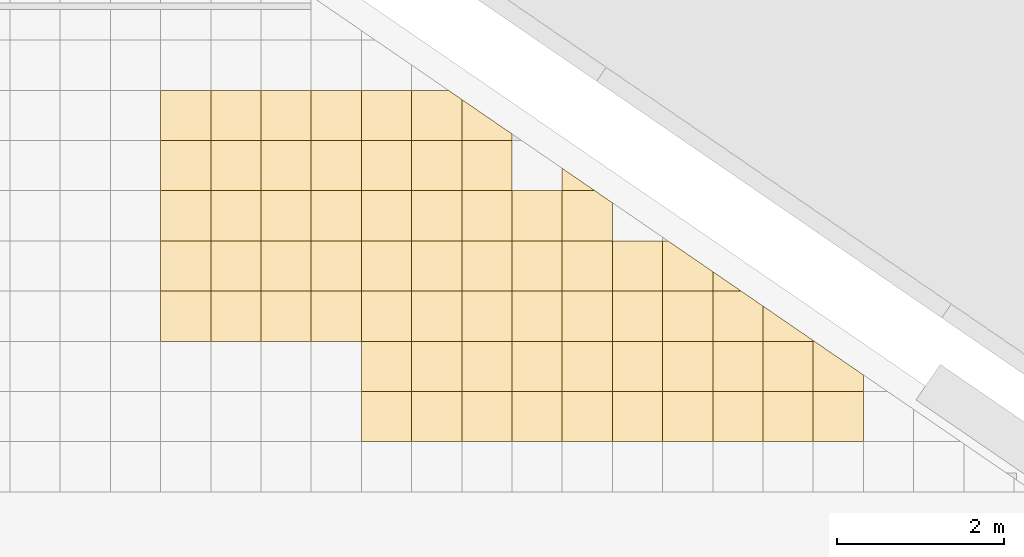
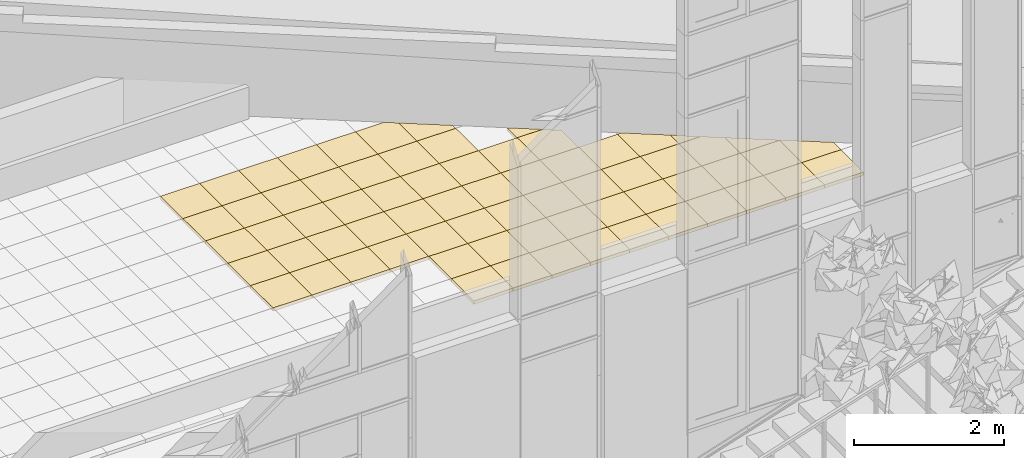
# One storey, part 199 of 246: 69 coverings.
"""IFC2X3 building model written with IfcOpenShell, lengths in millimetres."""

import ifcopenshell
import ifcopenshell.guid

model = None  # the IFC model being written
_history = None  # IfcOwnerHistory: only IFC2X3 demands one
_inside = {}  # id of a spatial element -> (the spatial element, [elements in it])
_under = {}  # id of a project, library or spatial element -> (it, [spatial elements below it])
_declared = {}  # id of a project -> (the project, [libraries it declares])
_typed = {}  # id of a type object -> (the type object, [elements of that type])
_made_of = {}  # id of a material, layer set ... -> (it, [elements and type objects made of it])


def new_model(schema):
    """Start an empty IFC model of exactly this schema.

    Asked for "IFC4X3", IfcOpenShell would pick the latest addendum, in which some entities
    have other attributes; the version numbers below select the first issue.
    IFC2X3 requires an IfcOwnerHistory on every rooted entity: one is made here for all.
    """
    global model, _history
    if schema == "IFC4X3":
        model = ifcopenshell.file(schema_version=(4, 3, 0, 0))
    else:
        model = ifcopenshell.file(schema=schema)
    _inside.clear()
    _under.clear()
    _declared.clear()
    _typed.clear()
    _made_of.clear()
    _history = None
    if model.schema == "IFC2X3":
        org = make("IfcOrganization", Name="unknown")
        user = make(
            "IfcPersonAndOrganization",
            ThePerson=make("IfcPerson", FamilyName="unknown"),
            TheOrganization=org,
        )
        app = make(
            "IfcApplication",
            ApplicationDeveloper=org,
            Version="unknown",
            ApplicationFullName="unknown",
            ApplicationIdentifier="unknown",
        )
        _history = make(
            "IfcOwnerHistory",
            OwningUser=user,
            OwningApplication=app,
            ChangeAction="ADDED",
            CreationDate=0,
        )
    return model


def make(cls, **values):
    """One entity of the class cls with the attributes given. An attribute that is None is left unset."""
    return model.create_entity(
        cls, **{name: value for name, value in values.items() if value is not None}
    )


def entity(cls, *values):
    """Any entity or typed value of the class cls, its attributes in the order of the schema. None: left unset."""
    e = model.create_entity(cls)
    for i, value in enumerate(values):
        if value is not None:
            e[i] = value
    return e


def rooted(cls, **values):
    """An entity with a GlobalId (a new one), such as an element, a storey or a relation."""
    return make(cls, GlobalId=ifcopenshell.guid.new(), OwnerHistory=_history, **values)


def si_unit(unit_type, name, prefix=None):
    """IfcSIUnit, for example si_unit("LENGTHUNIT", "METRE", prefix="MILLI")."""
    return make("IfcSIUnit", UnitType=unit_type, Prefix=prefix, Name=name)


def converted_unit(unit_type, name, factor, base, dimensions=None, offset=None):
    """IfcConversionBasedUnit, such as the inch: factor (a typed value) times the base unit."""
    return make(
        "IfcConversionBasedUnit"
        if offset is None
        else "IfcConversionBasedUnitWithOffset",
        ConversionOffset=offset,
        Dimensions=None
        if dimensions is None
        else entity("IfcDimensionalExponents", *dimensions),
        UnitType=unit_type,
        Name=name,
        ConversionFactor=make(
            "IfcMeasureWithUnit", ValueComponent=factor, UnitComponent=base
        ),
    )


def derived_unit(unit_type, elements):
    """IfcDerivedUnit: a product of units, each with its exponent."""
    return make(
        "IfcDerivedUnit",
        Elements=[
            make("IfcDerivedUnitElement", Unit=unit, Exponent=power)
            for unit, power in elements
        ],
        UnitType=unit_type,
    )


def money_unit(currency):
    """IfcMonetaryUnit."""
    return make("IfcMonetaryUnit", Currency=currency)


def assignment(units):
    """IfcUnitAssignment: the units of a project."""
    return None if units is None else make("IfcUnitAssignment", Units=units)


def point(xyz):
    """IfcCartesianPoint."""
    return None if xyz is None else make("IfcCartesianPoint", Coordinates=xyz)


def direction(xyz):
    """IfcDirection."""
    return None if xyz is None else make("IfcDirection", DirectionRatios=xyz)


def frame(location, z_axis=None, x_axis=None):
    """IfcAxis2Placement3D, a coordinate frame: its origin and axes. An axis left out is left unset."""
    return make(
        "IfcAxis2Placement3D",
        Location=point(location),
        Axis=direction(z_axis),
        RefDirection=direction(x_axis),
    )


def origin_with_axes():
    """The frame at (0, 0, 0) with the z axis (0, 0, 1) and the x axis (1, 0, 0) written out."""
    return frame((0.0, 0.0, 0.0), z_axis=(0.0, 0.0, 1.0), x_axis=(1.0, 0.0, 0.0))


def place(relative_to, where):
    """IfcLocalPlacement: puts the frame where relative to a parent placement (None: the world)."""
    return make(
        "IfcLocalPlacement", PlacementRelTo=relative_to, RelativePlacement=where
    )


def context(
    kind, dimensions, precision=None, world=None, true_north=None, identifier=None
):
    """IfcGeometricRepresentationContext, for example the 3D "Model" context."""
    return make(
        "IfcGeometricRepresentationContext",
        ContextIdentifier=identifier,
        ContextType=kind,
        CoordinateSpaceDimension=dimensions,
        Precision=precision,
        WorldCoordinateSystem=world,
        TrueNorth=true_north,
    )


def subcontext(parent, identifier, kind, view, scale=None):
    """IfcGeometricRepresentationSubContext, for example "Body" below "Model"."""
    return make(
        "IfcGeometricRepresentationSubContext",
        ContextIdentifier=identifier,
        ContextType=kind,
        ParentContext=parent,
        TargetScale=scale,
        TargetView=view,
    )


def project(units=None, contexts=None):
    """IfcProject with its units and contexts."""
    return rooted(
        "IfcProject",
        Name="project",
        RepresentationContexts=contexts,
        UnitsInContext=assignment(units),
    )


def spatial(cls, under=None, at=None, **own):
    """A site, building, storey or space (cls), placed at a placement, below another one or the project."""
    s = rooted(cls, ObjectPlacement=at, **own)
    if under is not None:
        _under.setdefault(under.id(), (under, []))[1].append(s)
    return s


def faces_of(points, faces, orient=None, outer=None):
    """IfcFace entities. A face is a list of loops; a loop is a list of indices into points, from 0.

    orient and outer hold one flag for each loop. By default every Orientation is true, the
    first loop of a face is its IfcFaceOuterBound and the others are IfcFaceBound.
    """
    made = []
    for i, loops in enumerate(faces):
        bounds = []
        for j, loop in enumerate(loops):
            is_outer = j == 0 if outer is None else outer[i][j]
            bounds.append(
                make(
                    "IfcFaceOuterBound" if is_outer else "IfcFaceBound",
                    Bound=make("IfcPolyLoop", Polygon=[points[k] for k in loop]),
                    Orientation=True if orient is None else orient[i][j],
                )
            )
        made.append(make("IfcFace", Bounds=bounds))
    return made


def faceted_brep(points, faces, orient=None, outer=None, voids=None):
    """IfcFacetedBrep: a solid bounded by flat faces; with voids (closed shells), ...WithVoids."""
    shared = [point(p) for p in points]
    hull = make("IfcClosedShell", CfsFaces=faces_of(shared, faces, orient, outer))
    if voids is None:
        return make("IfcFacetedBrep", Outer=hull)
    return make(
        "IfcFacetedBrepWithVoids",
        Outer=hull,
        Voids=[
            make(cls, CfsFaces=faces_of(shared, fs, o, b)) for cls, fs, o, b in voids
        ],
    )


def shape(context_of_items, identifier, shape_type, items):
    """IfcShapeRepresentation: the items that make up one representation, for example the "Body"."""
    return make(
        "IfcShapeRepresentation",
        ContextOfItems=context_of_items,
        RepresentationIdentifier=identifier,
        RepresentationType=shape_type,
        Items=items,
    )


def material(Name=None, Category=None):
    """IfcMaterial."""
    return make("IfcMaterial", Name=Name, Category=Category)


def material_list(materials):
    """IfcMaterialList."""
    return make("IfcMaterialList", Materials=materials)


def made_of(thing, what):
    """Note that an element or type object is made of a material, layer set ...; save() writes the relation."""
    if what is not None:
        _made_of.setdefault(what.id(), (what, []))[1].append(thing)
    return thing


def type_object(cls, material=None, **own):
    """A type object (cls), such as IfcWallType, which elements share."""
    return made_of(rooted(cls, **own), material)


def element(
    cls,
    number,
    at=None,
    inside=None,
    cuts=None,
    type_object=None,
    material=None,
    context=None,
    identifier="Body",
    shape_type=None,
    held_by="IfcProductDefinitionShape",
    body=None,
    shapes=None,
    **own,
):
    """One element of the class cls, such as IfcWall. Its Tag is "e" and its number.

    at: its placement. inside: the storey or other place that contains it. cuts: it is an
    opening in that element (IfcRelVoidsElement). A single representation is given by context,
    identifier, shape_type and body (its items); several are given by shapes. held_by: the class
    of the entity that holds the representations. save() writes the other relations.
    """
    e = rooted(cls, Tag="e%d" % number, ObjectPlacement=at, **own)
    if body is not None:
        shapes = [shape(context, identifier, shape_type, body)]
    if shapes is not None:
        e.Representation = make(held_by, Representations=shapes)
    if inside is not None:
        _inside.setdefault(inside.id(), (inside, []))[1].append(e)
    if cuts is not None:
        rooted(
            "IfcRelVoidsElement", RelatingBuildingElement=cuts, RelatedOpeningElement=e
        )
    if type_object is not None:
        _typed.setdefault(type_object.id(), (type_object, []))[1].append(e)
    return made_of(e, material)


def aggregate(whole, parts):
    """IfcRelAggregates: a whole, such as a stair, and the parts it consists of."""
    return rooted("IfcRelAggregates", RelatingObject=whole, RelatedObjects=parts)


def save(model, path):
    """Write the relations noted so far, then the file.

    IfcRelAggregates (storeys below a building ...), IfcRelContainedInSpatialStructure (elements
    in a storey), IfcRelDefinesByType, IfcRelAssociatesMaterial and IfcRelDeclares: one each for
    every whole, place, type object, material and project.
    """
    for whole, parts in _under.values():
        aggregate(whole, parts)
    for where, things in _inside.values():
        rooted(
            "IfcRelContainedInSpatialStructure",
            RelatedElements=things,
            RelatingStructure=where,
        )
    for kind, things in _typed.values():
        rooted("IfcRelDefinesByType", RelatedObjects=things, RelatingType=kind)
    for what, things in _made_of.values():
        rooted("IfcRelAssociatesMaterial", RelatedObjects=things, RelatingMaterial=what)
    for by, libraries in _declared.values():
        rooted("IfcRelDeclares", RelatingContext=by, RelatedDefinitions=libraries)
    model.write(path)


model = new_model("IFC2X3")

# Units and contexts
model_context = context("Model", 3, precision=0.01, world=origin_with_axes(), true_north=direction((0.0, 1.0)))
body_context = subcontext(model_context, "Body", "Model", "MODEL_VIEW")
ifc_project = project(units=[si_unit("LENGTHUNIT", "METRE", prefix="MILLI"), si_unit("AREAUNIT", "SQUARE_METRE"), si_unit("VOLUMEUNIT", "CUBIC_METRE"), converted_unit("PLANEANGLEUNIT", "DEGREE", entity("IfcPlaneAngleMeasure", 0.0174532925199), si_unit("PLANEANGLEUNIT", "RADIAN"), dimensions=[0, 0, 0, 0, 0, 0, 0]), si_unit("SOLIDANGLEUNIT", "STERADIAN"), money_unit("EUR"), converted_unit("TIMEUNIT", "Year", entity("IfcTimeMeasure", 31556926.0), si_unit("TIMEUNIT", "SECOND"), dimensions=[0, 0, 1, 0, 0, 0, 0]), si_unit("MASSUNIT", "GRAM", prefix="KILO"), si_unit("THERMODYNAMICTEMPERATUREUNIT", "DEGREE_CELSIUS"), si_unit("LUMINOUSINTENSITYUNIT", "LUMEN"), si_unit("ENERGYUNIT", "JOULE", prefix="MEGA"), derived_unit("THERMALCONDUCTANCEUNIT", [(si_unit("POWERUNIT", "WATT"), 1), (si_unit("LENGTHUNIT", "METRE"), -1), (si_unit("THERMODYNAMICTEMPERATUREUNIT", "KELVIN"), -1)]), derived_unit("SPECIFICHEATCAPACITYUNIT", [(si_unit("ENERGYUNIT", "JOULE"), 1), (si_unit("MASSUNIT", "GRAM", prefix="KILO"), -1), (si_unit("THERMODYNAMICTEMPERATUREUNIT", "KELVIN"), -1)]), derived_unit("MASSDENSITYUNIT", [(si_unit("MASSUNIT", "GRAM", prefix="KILO"), 1), (si_unit("VOLUMEUNIT", "CUBIC_METRE"), -1)])], contexts=[model_context])

# Site, building, storey
site_placement = place(None, origin_with_axes())
site = spatial("IfcSite", under=ifc_project, at=site_placement, Name="L.Koidula tn 11b", CompositionType="ELEMENT")
building_placement = place(site_placement, origin_with_axes())
building = spatial("IfcBuilding", under=site, at=building_placement, Name="Rakvere Riigigümnaasium", CompositionType="ELEMENT")
storey_placement = place(building_placement, origin_with_axes())
storey = spatial("IfcBuildingStorey", under=building, at=storey_placement, Name="1.korrus 0,00", CompositionType="ELEMENT", Elevation=0.0)

# Coverings
ifc_material_1 = material(Name="Karkass")
ifc_material_2 = material(Name="Kipsplaat")
ifc_material_list = material_list([ifc_material_1, ifc_material_2])
covering_type = type_object("IfcCoveringType", Name="SA-LV-Kips-moodul 55", PredefinedType="CEILING")
for number, where, z_axis, x_axis, name in (
    (1, (91709.8850867, 10490.4535941, 2750.0), (0.0, 0.0, 1.0), (1.0, 0.0, 0.0), "L-03"),
    (2, (91709.8850867, 9890.45359412, 2750.0), (0.0, 0.0, 1.0), (1.0, 0.0, 0.0), "L-03"),
    (3, (91709.8850867, 9290.45359412, 2750.0), (0.0, 0.0, 1.0), (1.0, 0.0, 0.0), "L-03"),
    (4, (91709.8850867, 8690.45359412, 2750.0), (0.0, 0.0, 1.0), (1.0, 0.0, 0.0), "L-03"),
    (5, (91709.8850867, 8090.45359412, 2750.0), (0.0, 0.0, 1.0), (1.0, 0.0, 0.0), "L-03"),
):
    element("IfcCovering", number, at=place(storey_placement, frame(where, z_axis=z_axis, x_axis=x_axis)), inside=storey, type_object=covering_type, material=ifc_material_list, Name=name, PredefinedType="CEILING", context=body_context, shape_type="Brep", body=[
        faceted_brep([(599.999948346, 0.0, 12.5), (599.999948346, 0.0, 54.5), (0.0, 0.0, 54.5), (0.0, 0.0, 12.5), (599.999948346, 600.0, 12.5), (599.999948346, 600.0, 54.5), (0.0, 600.0, 54.5), (0.0, 600.0, 12.5)], [[[0, 1, 2, 3]], [[4, 5, 1, 0]], [[2, 1, 5, 6]], [[3, 2, 6, 7]], [[3, 7, 4, 0]], [[7, 6, 5, 4]]]),
        faceted_brep([(0.0, 0.0, 0.0), (599.999948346, 0.0, 0.0), (599.999948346, 0.0, 12.5), (0.0, 0.0, 12.5), (0.0, 600.0, 0.0), (599.999948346, 600.0, 0.0), (599.999948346, 600.0, 12.5), (0.0, 600.0, 12.5)], [[[0, 1, 2, 3]], [[0, 4, 5, 1]], [[1, 5, 6, 2]], [[3, 2, 6, 7]], [[4, 0, 3, 7]], [[5, 4, 7, 6]]]),
    ])
for number, where, z_axis, x_axis, name in (
    (6, (91109.8850867, 8090.45359412, 2750.0), (0.0, 0.0, 1.0), (1.0, 0.0, 0.0), "L-03"),
    (7, (91109.8850867, 8690.45359412, 2750.0), (0.0, 0.0, 1.0), (1.0, 0.0, 0.0), "L-03"),
    (8, (91109.8850867, 9290.45359412, 2750.0), (0.0, 0.0, 1.0), (1.0, 0.0, 0.0), "L-03"),
    (9, (91109.8850867, 9890.45359412, 2750.0), (0.0, 0.0, 1.0), (1.0, 0.0, 0.0), "L-03"),
    (10, (91109.8850867, 10490.4535941, 2750.0), (0.0, 0.0, 1.0), (1.0, 0.0, 0.0), "L-03"),
):
    element("IfcCovering", number, at=place(storey_placement, frame(where, z_axis=z_axis, x_axis=x_axis)), inside=storey, type_object=covering_type, material=ifc_material_list, Name=name, PredefinedType="CEILING", context=body_context, shape_type="Brep", body=[
        faceted_brep([(600.0, 0.0, 12.5), (600.0, 0.0, 54.5), (0.0, 0.0, 54.5), (0.0, 0.0, 12.5), (600.0, 600.0, 12.5), (600.0, 600.0, 54.5), (0.0, 600.0, 54.5), (0.0, 600.0, 12.5)], [[[0, 1, 2, 3]], [[4, 5, 1, 0]], [[2, 1, 5, 6]], [[3, 2, 6, 7]], [[3, 7, 4, 0]], [[7, 6, 5, 4]]]),
        faceted_brep([(0.0, 0.0, 0.0), (600.0, 0.0, 0.0), (600.0, 0.0, 12.5), (0.0, 0.0, 12.5), (0.0, 600.0, 0.0), (600.0, 600.0, 0.0), (600.0, 600.0, 12.5), (0.0, 600.0, 12.5)], [[[0, 1, 2, 3]], [[0, 4, 5, 1]], [[1, 5, 6, 2]], [[3, 2, 6, 7]], [[4, 0, 3, 7]], [[5, 4, 7, 6]]]),
    ])
for number, where, z_axis, x_axis, name in (
    (11, (92909.8850351, 10490.4535941, 2750.0), (0.0, 0.0, 1.0), (1.0, 0.0, 0.0), "L-03"),
    (12, (92909.8850351, 9890.45359412, 2750.0), (0.0, 0.0, 1.0), (1.0, 0.0, 0.0), "L-03"),
    (13, (92909.8850351, 9290.45359412, 2750.0), (0.0, 0.0, 1.0), (1.0, 0.0, 0.0), "L-03"),
    (14, (92909.8850351, 8690.45359412, 2750.0), (0.0, 0.0, 1.0), (1.0, 0.0, 0.0), "L-03"),
    (15, (92909.8850351, 8090.45359412, 2750.0), (0.0, 0.0, 1.0), (1.0, 0.0, 0.0), "L-03"),
):
    element("IfcCovering", number, at=place(storey_placement, frame(where, z_axis=z_axis, x_axis=x_axis)), inside=storey, type_object=covering_type, material=ifc_material_list, Name=name, PredefinedType="CEILING", context=body_context, shape_type="Brep", body=[
        faceted_brep([(599.999948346, 0.0, 12.5), (599.999948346, 0.0, 54.5), (0.0, 0.0, 54.5), (0.0, 0.0, 12.5), (599.999948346, 600.0, 12.5), (599.999948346, 600.0, 54.5), (0.0, 600.0, 54.5), (0.0, 600.0, 12.5)], [[[0, 1, 2, 3]], [[4, 5, 1, 0]], [[2, 1, 5, 6]], [[3, 2, 6, 7]], [[3, 7, 4, 0]], [[7, 6, 5, 4]]]),
        faceted_brep([(0.0, 0.0, 0.0), (599.999948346, 0.0, 0.0), (599.999948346, 0.0, 12.5), (0.0, 0.0, 12.5), (0.0, 600.0, 0.0), (599.999948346, 600.0, 0.0), (599.999948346, 600.0, 12.5), (0.0, 600.0, 12.5)], [[[0, 1, 2, 3]], [[0, 4, 5, 1]], [[1, 5, 6, 2]], [[3, 2, 6, 7]], [[4, 0, 3, 7]], [[5, 4, 7, 6]]]),
    ])
for number, where, z_axis, x_axis, name in (
    (16, (92309.8850351, 8090.45359412, 2750.0), (0.0, 0.0, 1.0), (1.0, 0.0, 0.0), "L-03"),
    (17, (92309.8850351, 8690.45359412, 2750.0), (0.0, 0.0, 1.0), (1.0, 0.0, 0.0), "L-03"),
    (18, (92309.8850351, 9290.45359412, 2750.0), (0.0, 0.0, 1.0), (1.0, 0.0, 0.0), "L-03"),
    (19, (92309.8850351, 9890.45359412, 2750.0), (0.0, 0.0, 1.0), (1.0, 0.0, 0.0), "L-03"),
    (20, (92309.8850351, 10490.4535941, 2750.0), (0.0, 0.0, 1.0), (1.0, 0.0, 0.0), "L-03"),
):
    element("IfcCovering", number, at=place(storey_placement, frame(where, z_axis=z_axis, x_axis=x_axis)), inside=storey, type_object=covering_type, material=ifc_material_list, Name=name, PredefinedType="CEILING", context=body_context, shape_type="Brep", body=[
        faceted_brep([(600.0, 0.0, 12.5), (600.0, 0.0, 54.5), (0.0, 0.0, 54.5), (0.0, 0.0, 12.5), (600.0, 600.0, 12.5), (600.0, 600.0, 54.5), (0.0, 600.0, 54.5), (0.0, 600.0, 12.5)], [[[0, 1, 2, 3]], [[4, 5, 1, 0]], [[2, 1, 5, 6]], [[3, 2, 6, 7]], [[3, 7, 4, 0]], [[7, 6, 5, 4]]]),
        faceted_brep([(0.0, 0.0, 0.0), (600.0, 0.0, 0.0), (600.0, 0.0, 12.5), (0.0, 0.0, 12.5), (0.0, 600.0, 0.0), (600.0, 600.0, 0.0), (600.0, 600.0, 12.5), (0.0, 600.0, 12.5)], [[[0, 1, 2, 3]], [[0, 4, 5, 1]], [[1, 5, 6, 2]], [[3, 2, 6, 7]], [[4, 0, 3, 7]], [[5, 4, 7, 6]]]),
    ])
covering_1_placement = place(storey_placement, frame((94109.8849834, 10490.4535941, 2750.0), z_axis=(0.0, 0.0, 1.0), x_axis=(1.0, 0.0, 0.0)))
element("IfcCovering", 21, at=covering_1_placement, inside=storey, type_object=covering_type, material=ifc_material_list, Name="L-03", PredefinedType="CEILING", context=body_context, shape_type="Brep", body=[
    faceted_brep([(599.999948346, 0.0, 12.5), (599.999948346, 0.0, 54.5), (0.0, 0.0, 54.5), (0.0, 0.0, 12.5), (599.999948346, 490.135906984, 12.5), (599.999948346, 490.135906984, 54.5), (439.819595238, 600.0, 54.5), (0.0, 600.0, 54.5), (0.0, 600.0, 12.5), (439.819595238, 600.0, 12.5)], [[[0, 1, 2, 3]], [[4, 5, 1, 0]], [[2, 1, 5, 6, 7]], [[3, 2, 7, 8]], [[3, 8, 9, 4, 0]], [[9, 6, 5, 4]], [[8, 7, 6, 9]]]),
    faceted_brep([(0.0, 0.0, 0.0), (599.999948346, 0.0, 0.0), (599.999948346, 0.0, 12.5), (0.0, 0.0, 12.5), (0.0, 600.0, 0.0), (439.819595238, 600.0, 0.0), (599.999948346, 490.135906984, 0.0), (599.999948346, 490.135906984, 12.5), (439.819595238, 600.0, 12.5), (0.0, 600.0, 12.5)], [[[0, 1, 2, 3]], [[0, 4, 5, 6, 1]], [[1, 6, 7, 2]], [[3, 2, 7, 8, 9]], [[4, 0, 3, 9]], [[5, 4, 9, 8]], [[6, 5, 8, 7]]]),
])
for number, where, z_axis, x_axis, name in (
    (22, (94109.8849834, 9890.45359412, 2750.0), (0.0, 0.0, 1.0), (1.0, 0.0, 0.0), "L-03"),
    (23, (94109.8849834, 9290.45359412, 2750.0), (0.0, 0.0, 1.0), (1.0, 0.0, 0.0), "L-03"),
    (24, (94109.8849834, 8690.45359412, 2750.0), (0.0, 0.0, 1.0), (1.0, 0.0, 0.0), "L-03"),
    (25, (94109.8849834, 8090.45359412, 2750.0), (0.0, 0.0, 1.0), (1.0, 0.0, 0.0), "L-03"),
    (26, (94109.8849834, 7490.45359412, 2750.0), (0.0, 0.0, 1.0), (1.0, 0.0, 0.0), "L-03"),
    (27, (94109.8849834, 6890.45359412, 2750.0), (0.0, 0.0, 1.0), (1.0, 0.0, 0.0), "L-03"),
):
    element("IfcCovering", number, at=place(storey_placement, frame(where, z_axis=z_axis, x_axis=x_axis)), inside=storey, type_object=covering_type, material=ifc_material_list, Name=name, PredefinedType="CEILING", context=body_context, shape_type="Brep", body=[
        faceted_brep([(599.999948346, 0.0, 12.5), (599.999948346, 0.0, 54.5), (0.0, 0.0, 54.5), (0.0, 0.0, 12.5), (599.999948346, 600.0, 12.5), (599.999948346, 600.0, 54.5), (0.0, 600.0, 54.5), (0.0, 600.0, 12.5)], [[[0, 1, 2, 3]], [[4, 5, 1, 0]], [[2, 1, 5, 6]], [[3, 2, 6, 7]], [[3, 7, 4, 0]], [[7, 6, 5, 4]]]),
        faceted_brep([(0.0, 0.0, 0.0), (599.999948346, 0.0, 0.0), (599.999948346, 0.0, 12.5), (0.0, 0.0, 12.5), (0.0, 600.0, 0.0), (599.999948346, 600.0, 0.0), (599.999948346, 600.0, 12.5), (0.0, 600.0, 12.5)], [[[0, 1, 2, 3]], [[0, 4, 5, 1]], [[1, 5, 6, 2]], [[3, 2, 6, 7]], [[4, 0, 3, 7]], [[5, 4, 7, 6]]]),
    ])
for number, where, z_axis, x_axis, name in (
    (28, (93509.8849834, 7490.45359412, 2750.0), (0.0, 0.0, 1.0), (1.0, 0.0, 0.0), "L-03"),
    (29, (93509.8849834, 8090.45359412, 2750.0), (0.0, 0.0, 1.0), (1.0, 0.0, 0.0), "L-03"),
    (30, (93509.8849834, 8690.45359412, 2750.0), (0.0, 0.0, 1.0), (1.0, 0.0, 0.0), "L-03"),
    (31, (93509.8849834, 9290.45359412, 2750.0), (0.0, 0.0, 1.0), (1.0, 0.0, 0.0), "L-03"),
    (32, (93509.8849834, 9890.45359412, 2750.0), (0.0, 0.0, 1.0), (1.0, 0.0, 0.0), "L-03"),
    (33, (93509.8849834, 10490.4535941, 2750.0), (0.0, 0.0, 1.0), (1.0, 0.0, 0.0), "L-03"),
    (34, (93509.8849834, 6890.45359412, 2750.0), (0.0, 0.0, 1.0), (1.0, 0.0, 0.0), "L-03"),
):
    element("IfcCovering", number, at=place(storey_placement, frame(where, z_axis=z_axis, x_axis=x_axis)), inside=storey, type_object=covering_type, material=ifc_material_list, Name=name, PredefinedType="CEILING", context=body_context, shape_type="Brep", body=[
        faceted_brep([(600.0, 0.0, 12.5), (600.0, 0.0, 54.5), (0.0, 0.0, 54.5), (0.0, 0.0, 12.5), (600.0, 600.0, 12.5), (600.0, 600.0, 54.5), (0.0, 600.0, 54.5), (0.0, 600.0, 12.5)], [[[0, 1, 2, 3]], [[4, 5, 1, 0]], [[2, 1, 5, 6]], [[3, 2, 6, 7]], [[3, 7, 4, 0]], [[7, 6, 5, 4]]]),
        faceted_brep([(0.0, 0.0, 0.0), (600.0, 0.0, 0.0), (600.0, 0.0, 12.5), (0.0, 0.0, 12.5), (0.0, 600.0, 0.0), (600.0, 600.0, 0.0), (600.0, 600.0, 12.5), (0.0, 600.0, 12.5)], [[[0, 1, 2, 3]], [[0, 4, 5, 1]], [[1, 5, 6, 2]], [[3, 2, 6, 7]], [[4, 0, 3, 7]], [[5, 4, 7, 6]]]),
    ])
for number, where, z_axis, x_axis, name in (
    (35, (95309.8849318, 9290.45359412, 2750.0), (0.0, 0.0, 1.0), (1.0, 0.0, 0.0), "L-03"),
    (36, (95309.8849318, 8690.45359412, 2750.0), (0.0, 0.0, 1.0), (1.0, 0.0, 0.0), "L-03"),
    (37, (95309.8849318, 8090.45359412, 2750.0), (0.0, 0.0, 1.0), (1.0, 0.0, 0.0), "L-03"),
    (38, (95309.8849318, 7490.45359412, 2750.0), (0.0, 0.0, 1.0), (1.0, 0.0, 0.0), "L-03"),
    (39, (95309.8849318, 6890.45359412, 2750.0), (0.0, 0.0, 1.0), (1.0, 0.0, 0.0), "L-03"),
):
    element("IfcCovering", number, at=place(storey_placement, frame(where, z_axis=z_axis, x_axis=x_axis)), inside=storey, type_object=covering_type, material=ifc_material_list, Name=name, PredefinedType="CEILING", context=body_context, shape_type="Brep", body=[
        faceted_brep([(599.999948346, 0.0, 12.5), (599.999948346, 0.0, 54.5), (0.0, 0.0, 54.5), (0.0, 0.0, 12.5), (599.999948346, 600.0, 12.5), (599.999948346, 600.0, 54.5), (0.0, 600.0, 54.5), (0.0, 600.0, 12.5)], [[[0, 1, 2, 3]], [[4, 5, 1, 0]], [[2, 1, 5, 6]], [[3, 2, 6, 7]], [[3, 7, 4, 0]], [[7, 6, 5, 4]]]),
        faceted_brep([(0.0, 0.0, 0.0), (599.999948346, 0.0, 0.0), (599.999948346, 0.0, 12.5), (0.0, 0.0, 12.5), (0.0, 600.0, 0.0), (599.999948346, 600.0, 0.0), (599.999948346, 600.0, 12.5), (0.0, 600.0, 12.5)], [[[0, 1, 2, 3]], [[0, 4, 5, 1]], [[1, 5, 6, 2]], [[3, 2, 6, 7]], [[4, 0, 3, 7]], [[5, 4, 7, 6]]]),
    ])
for number, where, z_axis, x_axis, name in (
    (40, (94709.8849318, 7490.45359412, 2750.0), (0.0, 0.0, 1.0), (1.0, 0.0, 0.0), "L-03"),
    (41, (94709.8849318, 8090.45359412, 2750.0), (0.0, 0.0, 1.0), (1.0, 0.0, 0.0), "L-03"),
    (42, (94709.8849318, 8690.45359412, 2750.0), (0.0, 0.0, 1.0), (1.0, 0.0, 0.0), "L-03"),
    (43, (94709.8849318, 9290.45359412, 2750.0), (0.0, 0.0, 1.0), (1.0, 0.0, 0.0), "L-03"),
    (44, (94709.8849318, 9890.45359412, 2750.0), (0.0, 0.0, 1.0), (1.0, 0.0, 0.0), "L-03"),
):
    element("IfcCovering", number, at=place(storey_placement, frame(where, z_axis=z_axis, x_axis=x_axis)), inside=storey, type_object=covering_type, material=ifc_material_list, Name=name, PredefinedType="CEILING", context=body_context, shape_type="Brep", body=[
        faceted_brep([(600.0, 0.0, 12.5), (600.0, 0.0, 54.5), (0.0, 0.0, 54.5), (0.0, 0.0, 12.5), (600.0, 600.0, 12.5), (600.0, 600.0, 54.5), (0.0, 600.0, 54.5), (0.0, 600.0, 12.5)], [[[0, 1, 2, 3]], [[4, 5, 1, 0]], [[2, 1, 5, 6]], [[3, 2, 6, 7]], [[3, 7, 4, 0]], [[7, 6, 5, 4]]]),
        faceted_brep([(0.0, 0.0, 0.0), (600.0, 0.0, 0.0), (600.0, 0.0, 12.5), (0.0, 0.0, 12.5), (0.0, 600.0, 0.0), (600.0, 600.0, 0.0), (600.0, 600.0, 12.5), (0.0, 600.0, 12.5)], [[[0, 1, 2, 3]], [[0, 4, 5, 1]], [[1, 5, 6, 2]], [[3, 2, 6, 7]], [[4, 0, 3, 7]], [[5, 4, 7, 6]]]),
    ])
covering_2_placement = place(storey_placement, frame((94709.8849318, 10490.4535941, 2750.0), z_axis=(0.0, 0.0, 1.0), x_axis=(1.0, 0.0, 0.0)))
element("IfcCovering", 45, at=covering_2_placement, inside=storey, type_object=covering_type, material=ifc_material_list, Name="L-03", PredefinedType="CEILING", context=body_context, shape_type="Brep", body=[
    faceted_brep([(600.0, 0.0, 12.5), (600.0, 0.0, 54.5), (0.0, 0.0, 54.5), (0.0, 0.0, 12.5), (600.0, 78.6094336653, 12.5), (600.0, 78.6094336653, 54.5), (0.0, 490.135906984, 54.5), (0.0, 490.135906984, 12.5)], [[[0, 1, 2, 3]], [[4, 5, 1, 0]], [[2, 1, 5, 6]], [[3, 2, 6, 7]], [[3, 7, 4, 0]], [[7, 6, 5, 4]]]),
    faceted_brep([(0.0, 0.0, 0.0), (600.0, 0.0, 0.0), (600.0, 0.0, 12.5), (0.0, 0.0, 12.5), (0.0, 490.135906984, 0.0), (600.0, 78.6094336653, 0.0), (600.0, 78.6094336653, 12.5), (0.0, 490.135906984, 12.5)], [[[0, 1, 2, 3]], [[0, 4, 5, 1]], [[1, 5, 6, 2]], [[3, 2, 6, 7]], [[4, 0, 3, 7]], [[5, 4, 7, 6]]]),
])
covering_3_placement = place(storey_placement, frame((94709.8849318, 6890.45359412, 2750.0), z_axis=(0.0, 0.0, 1.0), x_axis=(1.0, 0.0, 0.0)))
element("IfcCovering", 46, at=covering_3_placement, inside=storey, type_object=covering_type, material=ifc_material_list, Name="L-03", PredefinedType="CEILING", context=body_context, shape_type="Brep", body=[
    faceted_brep([(600.0, 0.0, 12.5), (600.0, 0.0, 54.5), (0.0, 0.0, 54.5), (0.0, 0.0, 12.5), (600.0, 600.0, 12.5), (600.0, 600.0, 54.5), (0.0, 600.0, 54.5), (0.0, 600.0, 12.5)], [[[0, 1, 2, 3]], [[4, 5, 1, 0]], [[2, 1, 5, 6]], [[3, 2, 6, 7]], [[3, 7, 4, 0]], [[7, 6, 5, 4]]]),
    faceted_brep([(0.0, 0.0, 0.0), (600.0, 0.0, 0.0), (600.0, 0.0, 12.5), (0.0, 0.0, 12.5), (0.0, 600.0, 0.0), (600.0, 600.0, 0.0), (600.0, 600.0, 12.5), (0.0, 600.0, 12.5)], [[[0, 1, 2, 3]], [[0, 4, 5, 1]], [[1, 5, 6, 2]], [[3, 2, 6, 7]], [[4, 0, 3, 7]], [[5, 4, 7, 6]]]),
])
for number, where, z_axis, x_axis, name in (
    (47, (96509.8848801, 8690.45359412, 2750.0), (0.0, 0.0, 1.0), (1.0, 0.0, 0.0), "L-03"),
    (48, (96509.8848801, 8090.45359412, 2750.0), (0.0, 0.0, 1.0), (1.0, 0.0, 0.0), "L-03"),
    (49, (96509.8848801, 7490.45359412, 2750.0), (0.0, 0.0, 1.0), (1.0, 0.0, 0.0), "L-03"),
    (50, (96509.8848801, 6890.45359412, 2750.0), (0.0, 0.0, 1.0), (1.0, 0.0, 0.0), "L-03"),
):
    element("IfcCovering", number, at=place(storey_placement, frame(where, z_axis=z_axis, x_axis=x_axis)), inside=storey, type_object=covering_type, material=ifc_material_list, Name=name, PredefinedType="CEILING", context=body_context, shape_type="Brep", body=[
        faceted_brep([(599.999948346, 0.0, 12.5), (599.999948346, 0.0, 54.5), (0.0, 0.0, 54.5), (0.0, 0.0, 12.5), (599.999948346, 600.0, 12.5), (599.999948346, 600.0, 54.5), (0.0, 600.0, 54.5), (0.0, 600.0, 12.5)], [[[0, 1, 2, 3]], [[4, 5, 1, 0]], [[2, 1, 5, 6]], [[3, 2, 6, 7]], [[3, 7, 4, 0]], [[7, 6, 5, 4]]]),
        faceted_brep([(0.0, 0.0, 0.0), (599.999948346, 0.0, 0.0), (599.999948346, 0.0, 12.5), (0.0, 0.0, 12.5), (0.0, 600.0, 0.0), (599.999948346, 600.0, 0.0), (599.999948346, 600.0, 12.5), (0.0, 600.0, 12.5)], [[[0, 1, 2, 3]], [[0, 4, 5, 1]], [[1, 5, 6, 2]], [[3, 2, 6, 7]], [[4, 0, 3, 7]], [[5, 4, 7, 6]]]),
    ])
for number, where, z_axis, x_axis, name in (
    (51, (95909.8848801, 7490.45359412, 2750.0), (0.0, 0.0, 1.0), (1.0, 0.0, 0.0), "L-03"),
    (52, (95909.8848801, 8090.45359412, 2750.0), (0.0, 0.0, 1.0), (1.0, 0.0, 0.0), "L-03"),
    (53, (95909.8848801, 8690.45359412, 2750.0), (0.0, 0.0, 1.0), (1.0, 0.0, 0.0), "L-03"),
):
    element("IfcCovering", number, at=place(storey_placement, frame(where, z_axis=z_axis, x_axis=x_axis)), inside=storey, type_object=covering_type, material=ifc_material_list, Name=name, PredefinedType="CEILING", context=body_context, shape_type="Brep", body=[
        faceted_brep([(600.0, 0.0, 12.5), (600.0, 0.0, 54.5), (0.0, 0.0, 54.5), (0.0, 0.0, 12.5), (600.0, 600.0, 12.5), (600.0, 600.0, 54.5), (0.0, 600.0, 54.5), (0.0, 600.0, 12.5)], [[[0, 1, 2, 3]], [[4, 5, 1, 0]], [[2, 1, 5, 6]], [[3, 2, 6, 7]], [[3, 7, 4, 0]], [[7, 6, 5, 4]]]),
        faceted_brep([(0.0, 0.0, 0.0), (600.0, 0.0, 0.0), (600.0, 0.0, 12.5), (0.0, 0.0, 12.5), (0.0, 600.0, 0.0), (600.0, 600.0, 0.0), (600.0, 600.0, 12.5), (0.0, 600.0, 12.5)], [[[0, 1, 2, 3]], [[0, 4, 5, 1]], [[1, 5, 6, 2]], [[3, 2, 6, 7]], [[4, 0, 3, 7]], [[5, 4, 7, 6]]]),
    ])
covering_4_placement = place(storey_placement, frame((95909.8848801, 9290.45359412, 2750.0), z_axis=(0.0, 0.0, 1.0), x_axis=(1.0, 0.0, 0.0)))
element("IfcCovering", 54, at=covering_4_placement, inside=storey, type_object=covering_type, material=ifc_material_list, Name="L-03", PredefinedType="CEILING", context=body_context, shape_type="Brep", body=[
    faceted_brep([(600.0, 0.0, 12.5), (600.0, 0.0, 54.5), (0.0, 0.0, 54.5), (0.0, 0.0, 12.5), (600.0, 455.556522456, 12.5), (600.0, 455.556522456, 54.5), (389.403374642, 600.0, 54.5), (0.0, 600.0, 54.5), (0.0, 600.0, 12.5), (389.403374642, 600.0, 12.5)], [[[0, 1, 2, 3]], [[4, 5, 1, 0]], [[2, 1, 5, 6, 7]], [[3, 2, 7, 8]], [[3, 8, 9, 4, 0]], [[9, 6, 5, 4]], [[8, 7, 6, 9]]]),
    faceted_brep([(0.0, 0.0, 0.0), (600.0, 0.0, 0.0), (600.0, 0.0, 12.5), (0.0, 0.0, 12.5), (0.0, 600.0, 0.0), (389.403374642, 600.0, 0.0), (600.0, 455.556522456, 0.0), (600.0, 455.556522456, 12.5), (389.403374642, 600.0, 12.5), (0.0, 600.0, 12.5)], [[[0, 1, 2, 3]], [[0, 4, 5, 6, 1]], [[1, 6, 7, 2]], [[3, 2, 7, 8, 9]], [[4, 0, 3, 9]], [[5, 4, 9, 8]], [[6, 5, 8, 7]]]),
])
covering_5_placement = place(storey_placement, frame((95909.8848801, 9890.45359412, 2750.0), z_axis=(0.0, 0.0, 1.0), x_axis=(1.0, 0.0, 0.0)))
element("IfcCovering", 55, at=covering_5_placement, inside=storey, type_object=covering_type, material=ifc_material_list, Name="L-03", PredefinedType="CEILING", context=body_context, shape_type="Brep", body=[
    faceted_brep([(389.403374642, 0.0, 12.5), (389.403374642, 0.0, 54.5), (0.0, 0.0, 54.5), (0.0, 0.0, 12.5), (0.0, 267.082995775, 12.5), (0.0, 267.082995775, 54.5)], [[[0, 1, 2, 3]], [[4, 5, 1, 0]], [[2, 1, 5]], [[3, 2, 5, 4]], [[3, 4, 0]]]),
    faceted_brep([(0.0, 0.0, 0.0), (389.403374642, 0.0, 0.0), (389.403374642, 0.0, 12.5), (0.0, 0.0, 12.5), (0.0, 267.082995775, 0.0), (0.0, 267.082995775, 12.5)], [[[0, 1, 2, 3]], [[0, 4, 1]], [[1, 4, 5, 2]], [[3, 2, 5]], [[4, 0, 3, 5]]]),
])
covering_6_placement = place(storey_placement, frame((95909.8848801, 6890.45359412, 2750.0), z_axis=(0.0, 0.0, 1.0), x_axis=(1.0, 0.0, 0.0)))
element("IfcCovering", 56, at=covering_6_placement, inside=storey, type_object=covering_type, material=ifc_material_list, Name="L-03", PredefinedType="CEILING", context=body_context, shape_type="Brep", body=[
    faceted_brep([(600.0, 0.0, 12.5), (600.0, 0.0, 54.5), (0.0, 0.0, 54.5), (0.0, 0.0, 12.5), (600.0, 600.0, 12.5), (600.0, 600.0, 54.5), (0.0, 600.0, 54.5), (0.0, 600.0, 12.5)], [[[0, 1, 2, 3]], [[4, 5, 1, 0]], [[2, 1, 5, 6]], [[3, 2, 6, 7]], [[3, 7, 4, 0]], [[7, 6, 5, 4]]]),
    faceted_brep([(0.0, 0.0, 0.0), (600.0, 0.0, 0.0), (600.0, 0.0, 12.5), (0.0, 0.0, 12.5), (0.0, 600.0, 0.0), (600.0, 600.0, 0.0), (600.0, 600.0, 12.5), (0.0, 600.0, 12.5)], [[[0, 1, 2, 3]], [[0, 4, 5, 1]], [[1, 5, 6, 2]], [[3, 2, 6, 7]], [[4, 0, 3, 7]], [[5, 4, 7, 6]]]),
])
covering_7_placement = place(storey_placement, frame((97709.8848284, 8690.45359412, 2750.0), z_axis=(0.0, 0.0, 1.0), x_axis=(1.0, 0.0, 0.0)))
element("IfcCovering", 57, at=covering_7_placement, inside=storey, type_object=covering_type, material=ifc_material_list, Name="L-03", PredefinedType="CEILING", context=body_context, shape_type="Brep", body=[
    faceted_brep([(338.987102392, 0.0, 12.5), (338.987102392, 0.0, 54.5), (0.0, 0.0, 54.5), (0.0, 0.0, 12.5), (0.0, 232.503611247, 12.5), (0.0, 232.503611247, 54.5)], [[[0, 1, 2, 3]], [[4, 5, 1, 0]], [[2, 1, 5]], [[3, 2, 5, 4]], [[3, 4, 0]]]),
    faceted_brep([(0.0, 0.0, 0.0), (338.987102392, 0.0, 0.0), (338.987102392, 0.0, 12.5), (0.0, 0.0, 12.5), (0.0, 232.503611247, 0.0), (0.0, 232.503611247, 12.5)], [[[0, 1, 2, 3]], [[0, 4, 1]], [[1, 4, 5, 2]], [[3, 2, 5]], [[4, 0, 3, 5]]]),
])
covering_8_placement = place(storey_placement, frame((97709.8848284, 8090.45359412, 2750.0), z_axis=(0.0, 0.0, 1.0), x_axis=(1.0, 0.0, 0.0)))
element("IfcCovering", 58, at=covering_8_placement, inside=storey, type_object=covering_type, material=ifc_material_list, Name="L-03", PredefinedType="CEILING", context=body_context, shape_type="Brep", body=[
    faceted_brep([(599.999948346, 0.0, 12.5), (599.999948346, 0.0, 54.5), (0.0, 0.0, 54.5), (0.0, 0.0, 12.5), (599.999948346, 420.977173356, 12.5), (599.999948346, 420.977173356, 54.5), (338.987102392, 600.0, 54.5), (0.0, 600.0, 54.5), (0.0, 600.0, 12.5), (338.987102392, 600.0, 12.5)], [[[0, 1, 2, 3]], [[4, 5, 1, 0]], [[2, 1, 5, 6, 7]], [[3, 2, 7, 8]], [[3, 8, 9, 4, 0]], [[9, 6, 5, 4]], [[8, 7, 6, 9]]]),
    faceted_brep([(0.0, 0.0, 0.0), (599.999948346, 0.0, 0.0), (599.999948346, 0.0, 12.5), (0.0, 0.0, 12.5), (0.0, 600.0, 0.0), (338.987102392, 600.0, 0.0), (599.999948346, 420.977173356, 0.0), (599.999948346, 420.977173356, 12.5), (338.987102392, 600.0, 12.5), (0.0, 600.0, 12.5)], [[[0, 1, 2, 3]], [[0, 4, 5, 6, 1]], [[1, 6, 7, 2]], [[3, 2, 7, 8, 9]], [[4, 0, 3, 9]], [[5, 4, 9, 8]], [[6, 5, 8, 7]]]),
])
for number, where, z_axis, x_axis, name in (
    (59, (97709.8848284, 7490.45359412, 2750.0), (0.0, 0.0, 1.0), (1.0, 0.0, 0.0), "L-03"),
    (60, (97709.8848284, 6890.45359412, 2750.0), (0.0, 0.0, 1.0), (1.0, 0.0, 0.0), "L-03"),
):
    element("IfcCovering", number, at=place(storey_placement, frame(where, z_axis=z_axis, x_axis=x_axis)), inside=storey, type_object=covering_type, material=ifc_material_list, Name=name, PredefinedType="CEILING", context=body_context, shape_type="Brep", body=[
        faceted_brep([(599.999948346, 0.0, 12.5), (599.999948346, 0.0, 54.5), (0.0, 0.0, 54.5), (0.0, 0.0, 12.5), (599.999948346, 600.0, 12.5), (599.999948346, 600.0, 54.5), (0.0, 600.0, 54.5), (0.0, 600.0, 12.5)], [[[0, 1, 2, 3]], [[4, 5, 1, 0]], [[2, 1, 5, 6]], [[3, 2, 6, 7]], [[3, 7, 4, 0]], [[7, 6, 5, 4]]]),
        faceted_brep([(0.0, 0.0, 0.0), (599.999948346, 0.0, 0.0), (599.999948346, 0.0, 12.5), (0.0, 0.0, 12.5), (0.0, 600.0, 0.0), (599.999948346, 600.0, 0.0), (599.999948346, 600.0, 12.5), (0.0, 600.0, 12.5)], [[[0, 1, 2, 3]], [[0, 4, 5, 1]], [[1, 5, 6, 2]], [[3, 2, 6, 7]], [[4, 0, 3, 7]], [[5, 4, 7, 6]]]),
    ])
for number, where, z_axis, x_axis, name in (
    (61, (97109.8848284, 7490.45359412, 2750.0), (0.0, 0.0, 1.0), (1.0, 0.0, 0.0), "L-03"),
    (62, (97109.8848284, 8090.45359412, 2750.0), (0.0, 0.0, 1.0), (1.0, 0.0, 0.0), "L-03"),
):
    element("IfcCovering", number, at=place(storey_placement, frame(where, z_axis=z_axis, x_axis=x_axis)), inside=storey, type_object=covering_type, material=ifc_material_list, Name=name, PredefinedType="CEILING", context=body_context, shape_type="Brep", body=[
        faceted_brep([(600.0, 0.0, 12.5), (600.0, 0.0, 54.5), (0.0, 0.0, 54.5), (0.0, 0.0, 12.5), (600.0, 600.0, 12.5), (600.0, 600.0, 54.5), (0.0, 600.0, 54.5), (0.0, 600.0, 12.5)], [[[0, 1, 2, 3]], [[4, 5, 1, 0]], [[2, 1, 5, 6]], [[3, 2, 6, 7]], [[3, 7, 4, 0]], [[7, 6, 5, 4]]]),
        faceted_brep([(0.0, 0.0, 0.0), (600.0, 0.0, 0.0), (600.0, 0.0, 12.5), (0.0, 0.0, 12.5), (0.0, 600.0, 0.0), (600.0, 600.0, 0.0), (600.0, 600.0, 12.5), (0.0, 600.0, 12.5)], [[[0, 1, 2, 3]], [[0, 4, 5, 1]], [[1, 5, 6, 2]], [[3, 2, 6, 7]], [[4, 0, 3, 7]], [[5, 4, 7, 6]]]),
    ])
covering_9_placement = place(storey_placement, frame((97109.8848284, 8690.45359412, 2750.0), z_axis=(0.0, 0.0, 1.0), x_axis=(1.0, 0.0, 0.0)))
element("IfcCovering", 63, at=covering_9_placement, inside=storey, type_object=covering_type, material=ifc_material_list, Name="L-03", PredefinedType="CEILING", context=body_context, shape_type="Brep", body=[
    faceted_brep([(600.0, 0.0, 12.5), (600.0, 0.0, 54.5), (0.0, 0.0, 54.5), (0.0, 0.0, 12.5), (600.0, 232.503611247, 12.5), (600.0, 232.503611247, 54.5), (64.1952643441, 600.0, 54.5), (0.0, 600.0, 54.5), (0.0, 600.0, 12.5), (64.1952643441, 600.0, 12.5)], [[[0, 1, 2, 3]], [[4, 5, 1, 0]], [[2, 1, 5, 6, 7]], [[3, 2, 7, 8]], [[3, 8, 9, 4, 0]], [[9, 6, 5, 4]], [[8, 7, 6, 9]]]),
    faceted_brep([(0.0, 0.0, 0.0), (600.0, 0.0, 0.0), (600.0, 0.0, 12.5), (0.0, 0.0, 12.5), (0.0, 600.0, 0.0), (64.1952643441, 600.0, 0.0), (600.0, 232.503611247, 0.0), (600.0, 232.503611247, 12.5), (64.1952643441, 600.0, 12.5), (0.0, 600.0, 12.5)], [[[0, 1, 2, 3]], [[0, 4, 5, 6, 1]], [[1, 6, 7, 2]], [[3, 2, 7, 8, 9]], [[4, 0, 3, 9]], [[5, 4, 9, 8]], [[6, 5, 8, 7]]]),
])
covering_10_placement = place(storey_placement, frame((97109.8848284, 6890.45359412, 2750.0), z_axis=(0.0, 0.0, 1.0), x_axis=(1.0, 0.0, 0.0)))
element("IfcCovering", 64, at=covering_10_placement, inside=storey, type_object=covering_type, material=ifc_material_list, Name="L-03", PredefinedType="CEILING", context=body_context, shape_type="Brep", body=[
    faceted_brep([(600.0, 0.0, 12.5), (600.0, 0.0, 54.5), (0.0, 0.0, 54.5), (0.0, 0.0, 12.5), (600.0, 600.0, 12.5), (600.0, 600.0, 54.5), (0.0, 600.0, 54.5), (0.0, 600.0, 12.5)], [[[0, 1, 2, 3]], [[4, 5, 1, 0]], [[2, 1, 5, 6]], [[3, 2, 6, 7]], [[3, 7, 4, 0]], [[7, 6, 5, 4]]]),
    faceted_brep([(0.0, 0.0, 0.0), (600.0, 0.0, 0.0), (600.0, 0.0, 12.5), (0.0, 0.0, 12.5), (0.0, 600.0, 0.0), (600.0, 600.0, 0.0), (600.0, 600.0, 12.5), (0.0, 600.0, 12.5)], [[[0, 1, 2, 3]], [[0, 4, 5, 1]], [[1, 5, 6, 2]], [[3, 2, 6, 7]], [[4, 0, 3, 7]], [[5, 4, 7, 6]]]),
])
covering_11_placement = place(storey_placement, frame((98909.8847768, 7490.45359412, 2750.0), z_axis=(0.0, 0.0, 1.0), x_axis=(1.0, 0.0, 0.0)))
element("IfcCovering", 65, at=covering_11_placement, inside=storey, type_object=covering_type, material=ifc_material_list, Name="L-03", PredefinedType="CEILING", context=body_context, shape_type="Brep", body=[
    faceted_brep([(599.999948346, 0.0, 12.5), (599.999948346, 0.0, 54.5), (0.0, 0.0, 54.5), (0.0, 0.0, 12.5), (599.999948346, 197.924262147, 12.5), (599.999948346, 197.924262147, 54.5), (13.7789920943, 600.0, 54.5), (0.0, 600.0, 54.5), (0.0, 600.0, 12.5), (13.7789920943, 600.0, 12.5)], [[[0, 1, 2, 3]], [[4, 5, 1, 0]], [[2, 1, 5, 6, 7]], [[3, 2, 7, 8]], [[3, 8, 9, 4, 0]], [[9, 6, 5, 4]], [[8, 7, 6, 9]]]),
    faceted_brep([(0.0, 0.0, 0.0), (599.999948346, 0.0, 0.0), (599.999948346, 0.0, 12.5), (0.0, 0.0, 12.5), (0.0, 600.0, 0.0), (13.7789920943, 600.0, 0.0), (599.999948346, 197.924262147, 0.0), (599.999948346, 197.924262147, 12.5), (13.7789920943, 600.0, 12.5), (0.0, 600.0, 12.5)], [[[0, 1, 2, 3]], [[0, 4, 5, 6, 1]], [[1, 6, 7, 2]], [[3, 2, 7, 8, 9]], [[4, 0, 3, 9]], [[5, 4, 9, 8]], [[6, 5, 8, 7]]]),
])
covering_12_placement = place(storey_placement, frame((98909.8847768, 6890.45359412, 2750.0), z_axis=(0.0, 0.0, 1.0), x_axis=(1.0, 0.0, 0.0)))
element("IfcCovering", 66, at=covering_12_placement, inside=storey, type_object=covering_type, material=ifc_material_list, Name="L-03", PredefinedType="CEILING", context=body_context, shape_type="Brep", body=[
    faceted_brep([(599.999948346, 0.0, 12.5), (599.999948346, 0.0, 54.5), (0.0, 0.0, 54.5), (0.0, 0.0, 12.5), (599.999948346, 600.0, 12.5), (599.999948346, 600.0, 54.5), (0.0, 600.0, 54.5), (0.0, 600.0, 12.5)], [[[0, 1, 2, 3]], [[4, 5, 1, 0]], [[2, 1, 5, 6]], [[3, 2, 6, 7]], [[3, 7, 4, 0]], [[7, 6, 5, 4]]]),
    faceted_brep([(0.0, 0.0, 0.0), (599.999948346, 0.0, 0.0), (599.999948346, 0.0, 12.5), (0.0, 0.0, 12.5), (0.0, 600.0, 0.0), (599.999948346, 600.0, 0.0), (599.999948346, 600.0, 12.5), (0.0, 600.0, 12.5)], [[[0, 1, 2, 3]], [[0, 4, 5, 1]], [[1, 5, 6, 2]], [[3, 2, 6, 7]], [[4, 0, 3, 7]], [[5, 4, 7, 6]]]),
])
covering_13_placement = place(storey_placement, frame((98309.8847768, 7490.45359412, 2750.0), z_axis=(0.0, 0.0, 1.0), x_axis=(1.0, 0.0, 0.0)))
element("IfcCovering", 67, at=covering_13_placement, inside=storey, type_object=covering_type, material=ifc_material_list, Name="L-03", PredefinedType="CEILING", context=body_context, shape_type="Brep", body=[
    faceted_brep([(600.0, 0.0, 12.5), (600.0, 0.0, 54.5), (0.0, 0.0, 54.5), (0.0, 0.0, 12.5), (600.0, 600.0, 12.5), (600.0, 600.0, 54.5), (0.0, 600.0, 54.5), (0.0, 600.0, 12.5)], [[[0, 1, 2, 3]], [[4, 5, 1, 0]], [[2, 1, 5, 6]], [[3, 2, 6, 7]], [[3, 7, 4, 0]], [[7, 6, 5, 4]]]),
    faceted_brep([(0.0, 0.0, 0.0), (600.0, 0.0, 0.0), (600.0, 0.0, 12.5), (0.0, 0.0, 12.5), (0.0, 600.0, 0.0), (600.0, 600.0, 0.0), (600.0, 600.0, 12.5), (0.0, 600.0, 12.5)], [[[0, 1, 2, 3]], [[0, 4, 5, 1]], [[1, 5, 6, 2]], [[3, 2, 6, 7]], [[4, 0, 3, 7]], [[5, 4, 7, 6]]]),
])
covering_14_placement = place(storey_placement, frame((98309.8847768, 8090.45359412, 2750.0), z_axis=(0.0, 0.0, 1.0), x_axis=(1.0, 0.0, 0.0)))
element("IfcCovering", 68, at=covering_14_placement, inside=storey, type_object=covering_type, material=ifc_material_list, Name="L-03", PredefinedType="CEILING", context=body_context, shape_type="Brep", body=[
    faceted_brep([(600.0, 0.0, 12.5), (600.0, 0.0, 54.5), (0.0, 0.0, 54.5), (0.0, 0.0, 12.5), (600.0, 9.45070003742, 12.5), (600.0, 9.45070003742, 54.5), (0.0, 420.977173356, 54.5), (0.0, 420.977173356, 12.5)], [[[0, 1, 2, 3]], [[4, 5, 1, 0]], [[2, 1, 5, 6]], [[3, 2, 6, 7]], [[3, 7, 4, 0]], [[7, 6, 5, 4]]]),
    faceted_brep([(0.0, 0.0, 0.0), (600.0, 0.0, 0.0), (600.0, 0.0, 12.5), (0.0, 0.0, 12.5), (0.0, 420.977173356, 0.0), (600.0, 9.45070003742, 0.0), (600.0, 9.45070003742, 12.5), (0.0, 420.977173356, 12.5)], [[[0, 1, 2, 3]], [[0, 4, 5, 1]], [[1, 5, 6, 2]], [[3, 2, 6, 7]], [[4, 0, 3, 7]], [[5, 4, 7, 6]]]),
])
covering_15_placement = place(storey_placement, frame((98309.8847768, 6890.45359412, 2750.0), z_axis=(0.0, 0.0, 1.0), x_axis=(1.0, 0.0, 0.0)))
element("IfcCovering", 69, at=covering_15_placement, inside=storey, type_object=covering_type, material=ifc_material_list, Name="L-03", PredefinedType="CEILING", context=body_context, shape_type="Brep", body=[
    faceted_brep([(600.0, 0.0, 12.5), (600.0, 0.0, 54.5), (0.0, 0.0, 54.5), (0.0, 0.0, 12.5), (600.0, 600.0, 12.5), (600.0, 600.0, 54.5), (0.0, 600.0, 54.5), (0.0, 600.0, 12.5)], [[[0, 1, 2, 3]], [[4, 5, 1, 0]], [[2, 1, 5, 6]], [[3, 2, 6, 7]], [[3, 7, 4, 0]], [[7, 6, 5, 4]]]),
    faceted_brep([(0.0, 0.0, 0.0), (600.0, 0.0, 0.0), (600.0, 0.0, 12.5), (0.0, 0.0, 12.5), (0.0, 600.0, 0.0), (600.0, 600.0, 0.0), (600.0, 600.0, 12.5), (0.0, 600.0, 12.5)], [[[0, 1, 2, 3]], [[0, 4, 5, 1]], [[1, 5, 6, 2]], [[3, 2, 6, 7]], [[4, 0, 3, 7]], [[5, 4, 7, 6]]]),
])

save(model, "model.ifc")
